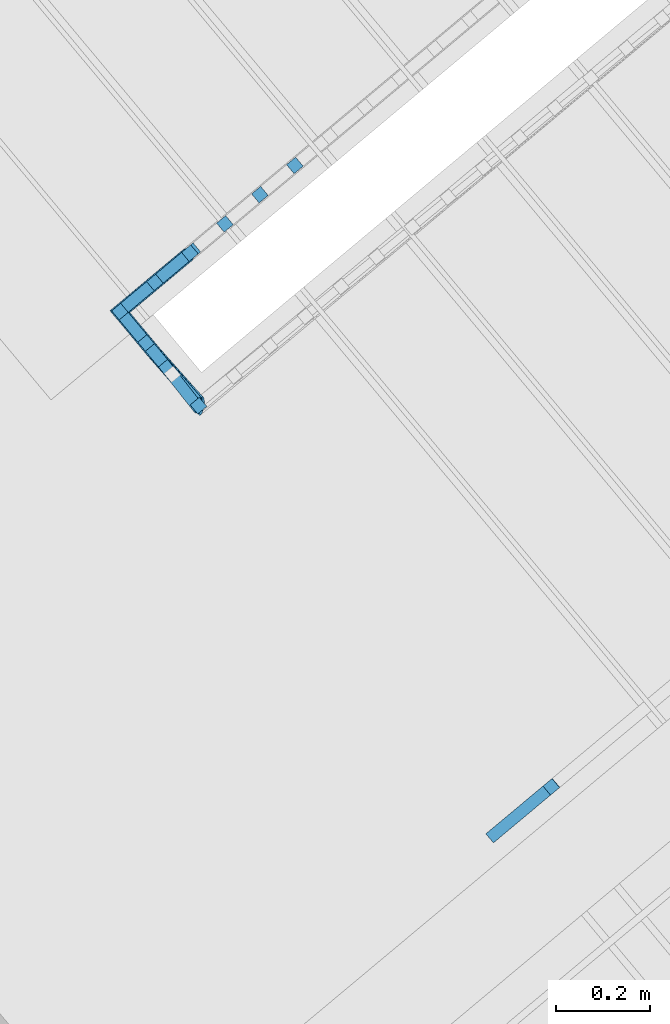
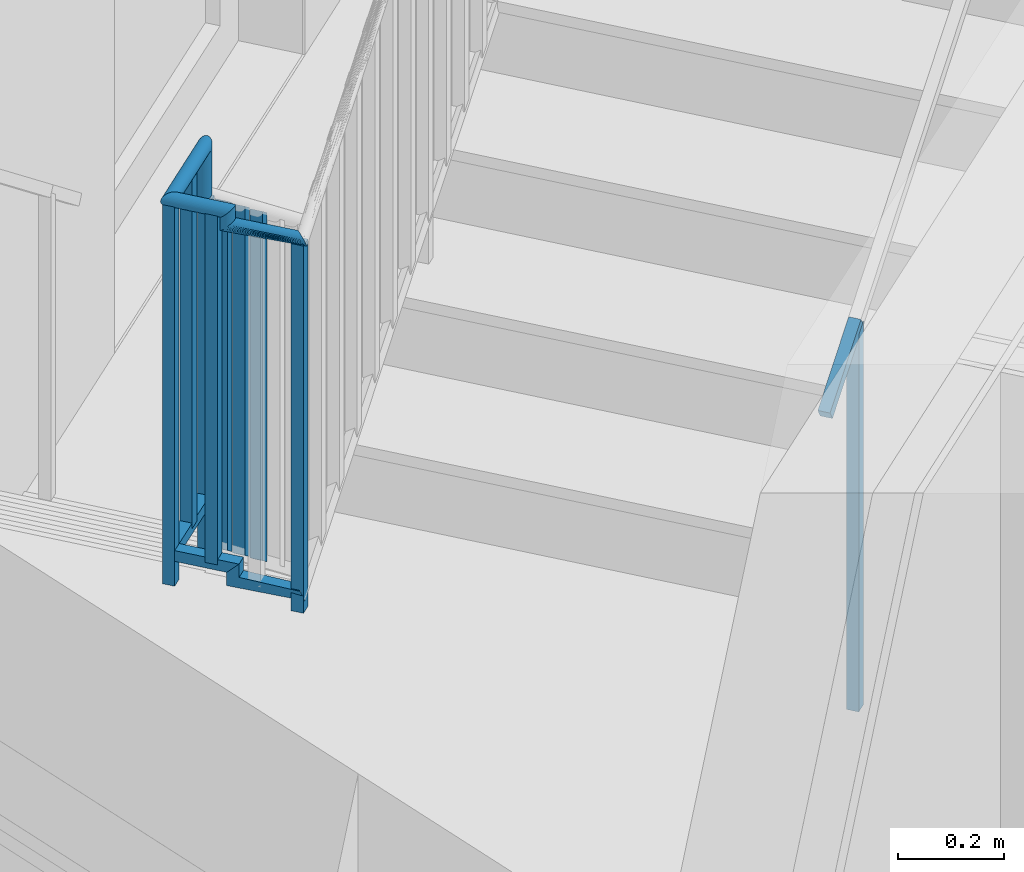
# One storey, part 38 of 50: 16 building element parts, 2 elements without a shape of their own.
"""IFC4 building model written with IfcOpenShell, lengths in metres."""

from ifc_helpers import new_model, entity, si_unit, converted_unit, derived_unit, direction, frame, origin_with_axes, place, context, subcontext, project, spatial, polygons, material, type_object, element, aggregate, save


model = new_model("IFC4")

# Units and contexts
model_context = context("Model", 3, precision=1e-05, world=origin_with_axes(), true_north=direction((0.0, 1.0)))
body_context = subcontext(model_context, "Body", "Model", "MODEL_VIEW")
ifc_project = project(units=[si_unit("LENGTHUNIT", "METRE"), si_unit("AREAUNIT", "SQUARE_METRE"), si_unit("VOLUMEUNIT", "CUBIC_METRE"), converted_unit("PLANEANGLEUNIT", "DEGREE", entity("IfcPlaneAngleMeasure", 0.0174532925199), si_unit("PLANEANGLEUNIT", "RADIAN"), dimensions=[0, 0, 0, 0, 0, 0, 0]), converted_unit("TIMEUNIT", "Year", entity("IfcTimeMeasure", 31556926.0), si_unit("TIMEUNIT", "SECOND"), dimensions=[0, 0, 1, 0, 0, 0, 0]), si_unit("MASSUNIT", "GRAM", prefix="KILO"), si_unit("THERMODYNAMICTEMPERATUREUNIT", "DEGREE_CELSIUS"), si_unit("LUMINOUSINTENSITYUNIT", "LUMEN"), si_unit("ENERGYUNIT", "JOULE", prefix="MEGA"), derived_unit("THERMALCONDUCTANCEUNIT", [(si_unit("POWERUNIT", "WATT"), 1), (si_unit("LENGTHUNIT", "METRE"), -1), (si_unit("THERMODYNAMICTEMPERATUREUNIT", "KELVIN"), -1)]), derived_unit("SPECIFICHEATCAPACITYUNIT", [(si_unit("ENERGYUNIT", "JOULE"), 1), (si_unit("MASSUNIT", "GRAM", prefix="KILO"), -1), (si_unit("THERMODYNAMICTEMPERATUREUNIT", "KELVIN"), -1)]), derived_unit("MASSDENSITYUNIT", [(si_unit("MASSUNIT", "GRAM", prefix="KILO"), 1), (si_unit("VOLUMEUNIT", "CUBIC_METRE"), -1)])], contexts=[model_context])

# Site, building, storey
site_placement = place(None, frame((-0.00153261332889, -0.00661245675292, 0.0), z_axis=(0.0, 0.0, 1.0), x_axis=(1.0, 0.0, 0.0)))
site = spatial("IfcSite", under=ifc_project, at=site_placement, Name="Site", CompositionType="ELEMENT")
building_placement = place(site_placement, origin_with_axes())
building = spatial("IfcBuilding", under=site, at=building_placement, Name="Building", CompositionType="ELEMENT")
storey_placement = place(building_placement, frame((0.0, 0.0, 2.74), z_axis=(0.0, 0.0, 1.0), x_axis=(1.0, 0.0, 0.0)))
storey = spatial("IfcBuildingStorey", under=building, at=storey_placement, Name="OG1", CompositionType="ELEMENT", Elevation=2.74)

# Railing, building element parts
railing_type = type_object("IfcRailingType", Name="Geländerart", PredefinedType="NOTDEFINED")
railing_1_placement = place(storey_placement, frame((-0.398547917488, 23.8355657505, 0.05), z_axis=(0.0, 0.0, 1.0), x_axis=(1.0, 0.0, 0.0)))
railing_1 = element("IfcRailing", 1, at=railing_1_placement, inside=storey, type_object=railing_type, Name="Geländer - 001", PredefinedType="NOTDEFINED")
ifc_material = material(Name="BEKLEIDUNG")
building_element_part_1_placement = place(railing_1_placement, origin_with_axes())
building_element_part_1 = element("IfcBuildingElementPart", 2, at=building_element_part_1_placement, material=ifc_material, Name="BEKLEIDUNG", PredefinedType="NOTDEFINED", context=body_context, shape_type="Tessellation", body=[
    polygons([(-1.83073465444, -1.44815547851, 1.77058823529), (-1.81470539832, -1.46734044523, 1.77058823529), (-1.81470539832, -1.46734044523, 2.65058823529), (-1.83073465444, -1.44815547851, 2.65058823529), (-1.81154968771, -1.43212622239, 1.77058823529), (-1.79552043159, -1.45131118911, 1.77058823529), (-1.79552043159, -1.45131118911, 2.65058823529), (-1.81154968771, -1.43212622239, 2.65058823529)], [[[1, 2, 3, 4]], [[1, 5, 6, 2]], [[2, 6, 7, 3]], [[4, 3, 7, 8]], [[5, 1, 4, 8]], [[6, 5, 8, 7]]], closed=True),
])
building_element_part_2_placement = place(railing_1_placement, origin_with_axes())
building_element_part_2 = element("IfcBuildingElementPart", 3, at=building_element_part_2_placement, material=ifc_material, Name="BEKLEIDUNG", PredefinedType="NOTDEFINED", context=body_context, shape_type="Tessellation", body=[
    polygons([(-1.65806995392, -1.30389217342, 1.7297425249), (-1.67725492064, -1.31992142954, 1.71753377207), (-1.67725492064, -1.31992142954, 1.82808823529), (-1.83073514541, -1.44815588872, 1.82808823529), (-1.83073514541, -1.44815588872, 1.85308823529), (-1.65806995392, -1.30389217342, 1.85308823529), (-1.6420406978, -1.32307714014, 1.7297425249), (-1.66122566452, -1.33910639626, 1.71753377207), (-1.66122566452, -1.33910639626, 1.82808823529), (-1.79551994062, -1.4513107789, 1.82808823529), (-1.79551994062, -1.4513107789, 1.85308823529), (-1.6420406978, -1.32307714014, 1.85308823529)], [[[1, 2, 3, 4, 5, 6]], [[1, 7, 8, 2]], [[2, 8, 9, 3]], [[3, 9, 10, 4]], [[5, 4, 10, 11]], [[12, 6, 5, 11]], [[7, 1, 6, 12]], [[8, 7, 12, 11, 10, 9]]], closed=True),
])
building_element_part_3_placement = place(railing_1_placement, origin_with_axes())
building_element_part_3 = element("IfcBuildingElementPart", 4, at=building_element_part_3_placement, material=ifc_material, Name="BEKLEIDUNG", PredefinedType="NOTDEFINED", context=body_context, shape_type="Tessellation", body=[
    polygons([(-1.66154123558, -1.34262781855, 2.54631289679), (-1.65968848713, -1.34078287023, 2.5475849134), (-1.65968848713, -1.34078287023, 2.65819295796), (-1.66154123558, -1.34262781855, 2.65558823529), (-1.66368620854, -1.34412301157, 2.54504088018), (-1.66605823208, -1.3452230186, 2.54380751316), (-1.66858523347, -1.34589441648, 2.54265027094), (-1.67119043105, -1.34611680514, 2.54160431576), (-1.67379466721, -1.3458834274, 2.54070142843), (-1.67631881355, -1.34520137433, 2.53996904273), (-1.67868617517, -1.34409136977, 2.53942941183), (-1.68082482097, -1.34258714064, 2.53909893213), (-1.68266976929, -1.34073439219, 2.53898764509), (-1.68416496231, -1.33858941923, 2.53909893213), (-1.68526496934, -1.33621739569, 2.53942941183), (-1.68593636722, -1.3336903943, 2.53996904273), (-1.68615875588, -1.33108519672, 2.54070142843), (-1.68592537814, -1.32848096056, 2.54160431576), (-1.68524332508, -1.32595681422, 2.54265027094), (-1.68413332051, -1.3235894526, 2.54380751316), (-1.68262909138, -1.3214508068, 2.54504088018), (-1.68077634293, -1.31960585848, 2.54631289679), (-1.67863136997, -1.31811066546, 2.5475849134), (-1.67625934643, -1.31701065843, 2.54881828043), (-1.67373234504, -1.31633926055, 2.54997552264), (-1.67112714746, -1.31611687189, 2.55102147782), (-1.6685229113, -1.31635024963, 2.55192436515), (-1.66599876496, -1.31703230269, 2.55265675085), (-1.66363140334, -1.31814230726, 2.55319638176), (-1.66149275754, -1.31964653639, 2.55352686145), (-1.65964780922, -1.32149928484, 2.55363814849), (-1.6581526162, -1.3236442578, 2.55352686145), (-1.65705260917, -1.32601628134, 2.55319638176), (-1.65638121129, -1.32854328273, 2.55265675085), (-1.65615882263, -1.33114848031, 2.55192436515), (-1.65639220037, -1.33375271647, 2.55102147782), (-1.65707425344, -1.33627686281, 2.54997552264), (-1.658184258, -1.33864422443, 2.54881828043), (-1.658184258, -1.33864422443, 2.66071853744), (-1.792319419, -1.45159751, 2.65819295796), (-1.79199842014, -1.45162626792, 2.65558823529), (-1.66368620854, -1.34412301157, 2.65298351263), (-1.66605823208, -1.3452230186, 2.65045793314), (-1.66858523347, -1.34589441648, 2.64808823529), (-1.67119043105, -1.34611680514, 2.64594642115), (-1.67379466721, -1.3458834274, 2.64409756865), (-1.67631881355, -1.34520137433, 2.64259785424), (-1.67868617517, -1.34409136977, 2.64149284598), (-1.68082482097, -1.34258714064, 2.640816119), (-1.68266976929, -1.34073439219, 2.64058823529), (-1.68416496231, -1.33858941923, 2.640816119), (-1.68526496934, -1.33621739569, 2.64149284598), (-1.68593636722, -1.3336903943, 2.64259785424), (-1.68615875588, -1.33108519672, 2.64409756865), (-1.68592537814, -1.32848096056, 2.64594642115), (-1.68524332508, -1.32595681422, 2.64808823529), (-1.68413332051, -1.3235894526, 2.65045793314), (-1.68262909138, -1.3214508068, 2.65298351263), (-1.68077634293, -1.31960585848, 2.65558823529), (-1.67863136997, -1.31811066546, 2.65819295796), (-1.67625934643, -1.31701065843, 2.66071853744), (-1.67373234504, -1.31633926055, 2.66308823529), (-1.67112714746, -1.31611687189, 2.66523004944), (-1.6685229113, -1.31635024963, 2.66707890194), (-1.66599876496, -1.31703230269, 2.66857861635), (-1.66363140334, -1.31814230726, 2.66968362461), (-1.66149275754, -1.31964653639, 2.67036035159), (-1.65964780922, -1.32149928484, 2.67058823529), (-1.6581526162, -1.3236442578, 2.67036035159), (-1.65705260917, -1.32601628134, 2.66968362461), (-1.65638121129, -1.32854328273, 2.66857861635), (-1.65615882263, -1.33114848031, 2.66707890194), (-1.65639220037, -1.33375271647, 2.66523004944), (-1.65707425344, -1.33627686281, 2.66308823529), (-1.79327266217, -1.45151211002, 2.66071853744), (-1.79482918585, -1.45137266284, 2.66308823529), (-1.79694169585, -1.45118340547, 2.66523004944), (-1.79954600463, -1.4509500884, 2.66707890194), (-1.80256298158, -1.45067980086, 2.66857861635), (-1.80590095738, -1.45038075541, 2.66968362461), (-1.80945850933, -1.45006203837, 2.67036035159), (-1.81312754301, -1.44973333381, 2.67058823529), (-1.8167965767, -1.44940462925, 2.67036035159), (-1.82035412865, -1.44908591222, 2.66968362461), (-1.82369210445, -1.44878686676, 2.66857861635), (-1.8267090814, -1.44851657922, 2.66707890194), (-1.82931339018, -1.44828326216, 2.66523004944), (-1.83142590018, -1.44809400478, 2.66308823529), (-1.83298242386, -1.4479545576, 2.66071853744), (-1.83393566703, -1.44786915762, 2.65819295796), (-1.83425666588, -1.4478403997, 2.65558823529), (-1.83393566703, -1.44786915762, 2.65298351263), (-1.83298242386, -1.4479545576, 2.65045793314), (-1.83142590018, -1.44809400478, 2.64808823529), (-1.82931339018, -1.44828326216, 2.64594642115), (-1.8267090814, -1.44851657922, 2.64409756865), (-1.82369210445, -1.44878686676, 2.64259785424), (-1.82035412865, -1.44908591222, 2.64149284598), (-1.8167965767, -1.44940462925, 2.640816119), (-1.81312754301, -1.44973333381, 2.64058823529), (-1.80945850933, -1.45006203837, 2.640816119), (-1.80590095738, -1.45038075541, 2.64149284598), (-1.80256298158, -1.45067980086, 2.64259785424), (-1.79954600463, -1.4509500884, 2.64409756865), (-1.79694169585, -1.45118340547, 2.64594642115), (-1.79482918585, -1.45137266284, 2.64808823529), (-1.79327266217, -1.45151211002, 2.65045793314), (-1.792319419, -1.45159751, 2.65298351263)], [[[1, 2, 3, 4]], [[1, 5, 6, 7, 8, 9, 10, 11, 12, 13, 14, 15, 16, 17, 18, 19, 20, 21, 22, 23, 24, 25, 26, 27, 28, 29, 30, 31, 32, 33, 34, 35, 36, 37, 38, 2]], [[2, 38, 39, 3]], [[4, 3, 40, 41]], [[5, 1, 4, 42]], [[6, 5, 42, 43]], [[7, 6, 43, 44]], [[8, 7, 44, 45]], [[9, 8, 45, 46]], [[10, 9, 46, 47]], [[11, 10, 47, 48]], [[12, 11, 48, 49]], [[13, 12, 49, 50]], [[14, 13, 50, 51]], [[15, 14, 51, 52]], [[16, 15, 52, 53]], [[17, 16, 53, 54]], [[18, 17, 54, 55]], [[19, 18, 55, 56]], [[20, 19, 56, 57]], [[21, 20, 57, 58]], [[22, 21, 58, 59]], [[23, 22, 59, 60]], [[24, 23, 60, 61]], [[25, 24, 61, 62]], [[26, 25, 62, 63]], [[27, 26, 63, 64]], [[28, 27, 64, 65]], [[29, 28, 65, 66]], [[30, 29, 66, 67]], [[31, 30, 67, 68]], [[32, 31, 68, 69]], [[33, 32, 69, 70]], [[34, 33, 70, 71]], [[35, 34, 71, 72]], [[36, 35, 72, 73]], [[37, 36, 73, 74]], [[38, 37, 74, 39]], [[3, 39, 75, 40]], [[41, 40, 75, 76, 77, 78, 79, 80, 81, 82, 83, 84, 85, 86, 87, 88, 89, 90, 91, 92, 93, 94, 95, 96, 97, 98, 99, 100, 101, 102, 103, 104, 105, 106, 107, 108]], [[42, 4, 41, 108]], [[43, 42, 108, 107]], [[44, 43, 107, 106]], [[45, 44, 106, 105]], [[46, 45, 105, 104]], [[47, 46, 104, 103]], [[48, 47, 103, 102]], [[49, 48, 102, 101]], [[50, 49, 101, 100]], [[51, 50, 100, 99]], [[52, 51, 99, 98]], [[53, 52, 98, 97]], [[54, 53, 97, 96]], [[55, 54, 96, 95]], [[56, 55, 95, 94]], [[57, 56, 94, 93]], [[58, 57, 93, 92]], [[59, 58, 92, 91]], [[60, 59, 91, 90]], [[61, 60, 90, 89]], [[62, 61, 89, 88]], [[63, 62, 88, 87]], [[64, 63, 87, 86]], [[65, 64, 86, 85]], [[66, 65, 85, 84]], [[67, 66, 84, 83]], [[68, 67, 83, 82]], [[69, 68, 82, 81]], [[70, 69, 81, 80]], [[71, 70, 80, 79]], [[72, 71, 79, 78]], [[73, 72, 78, 77]], [[74, 73, 77, 76]], [[39, 74, 76, 75]]], closed=True),
])
building_element_part_4_placement = place(railing_1_placement, origin_with_axes())
building_element_part_4 = element("IfcBuildingElementPart", 5, at=building_element_part_4_placement, material=ifc_material, Name="BEKLEIDUNG", PredefinedType="NOTDEFINED", context=body_context, shape_type="Tessellation", body=[
    polygons([(-1.64801867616, -1.66682135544, 1.77058823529), (-1.62883452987, -1.65079111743, 1.77058823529), (-1.62883452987, -1.65079111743, 2.61989887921), (-1.64801867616, -1.66682135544, 2.61989887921), (-1.66404891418, -1.64763720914, 1.77058823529), (-1.64486476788, -1.63160697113, 1.77058823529), (-1.64486476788, -1.63160697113, 2.61989887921), (-1.66404891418, -1.64763720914, 2.61989887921)], [[[1, 2, 3, 4]], [[1, 5, 6, 2]], [[2, 6, 7, 3]], [[4, 3, 7, 8]], [[5, 1, 4, 8]], [[6, 5, 8, 7]]], closed=True),
])
building_element_part_5_placement = place(railing_1_placement, origin_with_axes())
building_element_part_5 = element("IfcBuildingElementPart", 6, at=building_element_part_5_placement, material=ifc_material, Name="BEKLEIDUNG", PredefinedType="NOTDEFINED", context=body_context, shape_type="Tessellation", body=[
    polygons([(-1.73136158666, -1.5670809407, 1.85308823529), (-1.74739182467, -1.5478967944, 1.82808823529), (-1.74739182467, -1.5478967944, 1.79739887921), (-1.73136158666, -1.5670809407, 1.82239887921), (-1.71217744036, -1.55105070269, 1.85308823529), (-1.72820767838, -1.53186655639, 1.82808823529), (-1.72820767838, -1.53186655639, 1.79739887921), (-1.64445279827, -1.66621433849, 1.79779595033), (-1.71217744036, -1.55105070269, 1.82239887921), (-1.63893066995, -1.63383411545, 1.79779595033), (-1.6539527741, -1.66459421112, 1.82200180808), (-1.64843064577, -1.63221398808, 1.82200180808)], [[[1, 2, 3, 4]], [[1, 5, 6, 2]], [[2, 6, 7, 3]], [[4, 3, 8]], [[5, 1, 4, 9]], [[6, 5, 9, 7]], [[3, 7, 10]], [[3, 10, 8]], [[4, 8, 11]], [[9, 4, 11]], [[7, 9, 12]], [[7, 12, 10]], [[11, 8, 10, 12]], [[9, 11, 12]]], closed=True),
])
building_element_part_6_placement = place(railing_1_placement, origin_with_axes())
building_element_part_6 = element("IfcBuildingElementPart", 7, at=building_element_part_6_placement, material=ifc_material, Name="BEKLEIDUNG", PredefinedType="NOTDEFINED", context=body_context, shape_type="Tessellation", body=[
    polygons([(-1.72789228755, -1.52834511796, 2.65558823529), (-1.72639698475, -1.53049001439, 2.65819295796), (-1.72639698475, -1.53049001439, 2.62750360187), (-1.72789228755, -1.52834511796, 2.62489887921), (-1.72973733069, -1.52649246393, 2.65298351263), (-1.73187605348, -1.52498834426, 2.65045793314), (-1.7342434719, -1.52387846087, 2.64808823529), (-1.73676765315, -1.52319653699, 2.64594642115), (-1.73937190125, -1.52296329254, 2.64409756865), (-1.74197708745, -1.52318581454, 2.64259785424), (-1.74450405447, -1.52385734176, 2.64149284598), (-1.74687602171, -1.52495747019, 2.640816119), (-1.74902091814, -1.52645277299, 2.64058823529), (-1.75087357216, -1.52829781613, 2.640816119), (-1.75237769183, -1.53043653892, 2.64149284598), (-1.75348757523, -1.53280395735, 2.64259785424), (-1.7541694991, -1.53532813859, 2.64409756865), (-1.75440274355, -1.53793238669, 2.64594642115), (-1.75418022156, -1.54053757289, 2.64808823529), (-1.75350869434, -1.54306453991, 2.65045793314), (-1.7524085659, -1.54543650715, 2.65298351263), (-1.75091326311, -1.54758140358, 2.65558823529), (-1.74906821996, -1.5494340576, 2.65819295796), (-1.74692949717, -1.55093817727, 2.66071853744), (-1.74456207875, -1.55204806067, 2.66308823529), (-1.7420378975, -1.55272998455, 2.66523004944), (-1.7394336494, -1.55296322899, 2.66707890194), (-1.73682846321, -1.552740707, 2.66857861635), (-1.73430149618, -1.55206917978, 2.66968362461), (-1.73192952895, -1.55096905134, 2.67036035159), (-1.72978463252, -1.54947374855, 2.67058823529), (-1.72793197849, -1.5476287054, 2.67036035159), (-1.72642785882, -1.54548998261, 2.66968362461), (-1.72531797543, -1.54312256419, 2.66857861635), (-1.72463605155, -1.54059838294, 2.66707890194), (-1.7244028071, -1.53799413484, 2.66523004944), (-1.7246253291, -1.53538894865, 2.66308823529), (-1.72529685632, -1.53286198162, 2.66071853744), (-1.72529685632, -1.53286198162, 2.63002918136), (-1.63846858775, -1.63088446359, 2.62789734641), (-1.72973733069, -1.52649246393, 2.62229415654), (-1.73187605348, -1.52498834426, 2.61976857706), (-1.7342434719, -1.52387846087, 2.61739887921), (-1.73676765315, -1.52319653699, 2.61525706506), (-1.73937190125, -1.52296329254, 2.61340821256), (-1.74197708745, -1.52318581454, 2.61190849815), (-1.74450405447, -1.52385734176, 2.6108034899), (-1.74687602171, -1.52495747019, 2.61012676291), (-1.74902091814, -1.52645277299, 2.60989887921), (-1.75087357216, -1.52829781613, 2.61012676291), (-1.75237769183, -1.53043653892, 2.6108034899), (-1.75348757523, -1.53280395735, 2.61190849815), (-1.7541694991, -1.53532813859, 2.61340821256), (-1.75440274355, -1.53793238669, 2.61525706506), (-1.75418022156, -1.54053757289, 2.61739887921), (-1.75350869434, -1.54306453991, 2.61976857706), (-1.7524085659, -1.54543650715, 2.62229415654), (-1.75091326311, -1.54758140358, 2.62489887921), (-1.74906821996, -1.5494340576, 2.62750360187), (-1.74692949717, -1.55093817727, 2.63002918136), (-1.74456207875, -1.55204806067, 2.63239887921), (-1.7420378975, -1.55272998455, 2.63454069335), (-1.7394336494, -1.55296322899, 2.63638954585), (-1.73682846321, -1.552740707, 2.63788926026), (-1.73430149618, -1.55206917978, 2.63899426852), (-1.73192952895, -1.55096905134, 2.6396709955), (-1.72978463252, -1.54947374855, 2.63989887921), (-1.72793197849, -1.5476287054, 2.6396709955), (-1.72642785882, -1.54548998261, 2.63899426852), (-1.72531797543, -1.54312256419, 2.63788926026), (-1.72463605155, -1.54059838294, 2.63638954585), (-1.7244028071, -1.53799413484, 2.63454069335), (-1.7246253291, -1.53538894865, 2.63239887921), (-1.63957778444, -1.631597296, 2.63034269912), (-1.63742845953, -1.63075810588, 2.62537536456), (-1.63648900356, -1.63122206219, 2.62285338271), (-1.63567876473, -1.63226223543, 2.62040803), (-1.63502236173, -1.63384702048, 2.61811360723), (-1.63453973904, -1.63592826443, 2.61603982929), (-1.63424556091, -1.63844272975, 2.61424970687), (-1.63414876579, -1.64131401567, 2.61279763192), (-1.63425229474, -1.64445487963, 2.61172772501), (-1.63455300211, -1.64776988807, 2.61107249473), (-1.63504175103, -1.65115831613, 2.61085184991), (-1.63570369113, -1.65451720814, 2.61107249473), (-1.63651870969, -1.65774450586, 2.61172772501), (-1.63746204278, -1.66074214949, 2.61279763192), (-1.63850502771, -1.66341905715, 2.61424970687), (-1.63961597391, -1.66569389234, 2.61603982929), (-1.64076112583, -1.66749753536, 2.61811360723), (-1.64190568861, -1.66877518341, 2.62040803), (-1.64301488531, -1.66948801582, 2.62285338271), (-1.64405501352, -1.66961437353, 2.62537536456), (-1.64499446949, -1.66915041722, 2.62789734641), (-1.64580470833, -1.66811024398, 2.63034269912), (-1.64646111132, -1.66652545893, 2.63263712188), (-1.64694373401, -1.66444421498, 2.63471089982), (-1.64723791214, -1.66192974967, 2.63650102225), (-1.64733470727, -1.65905846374, 2.6379530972), (-1.64723117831, -1.65591759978, 2.6390230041), (-1.64693047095, -1.65260259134, 2.63967823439), (-1.64644172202, -1.64921416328, 2.63989887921), (-1.64577978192, -1.64585527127, 2.63967823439), (-1.64496476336, -1.64262797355, 2.6390230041), (-1.64402143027, -1.63963032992, 2.6379530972), (-1.64297844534, -1.63695342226, 2.63650102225), (-1.64186749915, -1.63467858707, 2.63471089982), (-1.64072234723, -1.63287494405, 2.63263712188)], [[[1, 2, 3, 4]], [[1, 5, 6, 7, 8, 9, 10, 11, 12, 13, 14, 15, 16, 17, 18, 19, 20, 21, 22, 23, 24, 25, 26, 27, 28, 29, 30, 31, 32, 33, 34, 35, 36, 37, 38, 2]], [[2, 38, 39, 3]], [[4, 3, 40]], [[5, 1, 4, 41]], [[6, 5, 41, 42]], [[7, 6, 42, 43]], [[8, 7, 43, 44]], [[9, 8, 44, 45]], [[10, 9, 45, 46]], [[11, 10, 46, 47]], [[12, 11, 47, 48]], [[13, 12, 48, 49]], [[14, 13, 49, 50]], [[15, 14, 50, 51]], [[16, 15, 51, 52]], [[17, 16, 52, 53]], [[18, 17, 53, 54]], [[19, 18, 54, 55]], [[20, 19, 55, 56]], [[21, 20, 56, 57]], [[22, 21, 57, 58]], [[23, 22, 58, 59]], [[24, 23, 59, 60]], [[25, 24, 60, 61]], [[26, 25, 61, 62]], [[27, 26, 62, 63]], [[28, 27, 63, 64]], [[29, 28, 64, 65]], [[30, 29, 65, 66]], [[31, 30, 66, 67]], [[32, 31, 67, 68]], [[33, 32, 68, 69]], [[34, 33, 69, 70]], [[35, 34, 70, 71]], [[36, 35, 71, 72]], [[37, 36, 72, 73]], [[38, 37, 73, 39]], [[3, 39, 74]], [[3, 74, 40]], [[4, 40, 75]], [[41, 4, 75]], [[42, 41, 76]], [[43, 42, 77]], [[44, 43, 78]], [[45, 44, 79]], [[46, 45, 80]], [[47, 46, 81]], [[48, 47, 82]], [[49, 48, 83]], [[50, 49, 84]], [[51, 50, 85]], [[52, 51, 86]], [[53, 52, 87]], [[54, 53, 88]], [[55, 54, 89]], [[56, 55, 90]], [[57, 56, 91]], [[58, 57, 92]], [[59, 58, 93]], [[60, 59, 94]], [[61, 60, 95]], [[62, 61, 96]], [[63, 62, 97]], [[64, 63, 98]], [[65, 64, 99]], [[66, 65, 100]], [[67, 66, 101]], [[68, 67, 102]], [[69, 68, 103]], [[70, 69, 104]], [[71, 70, 105]], [[72, 71, 106]], [[73, 72, 107]], [[39, 73, 108]], [[39, 108, 74]], [[75, 40, 74, 108, 107, 106, 105, 104, 103, 102, 101, 100, 99, 98, 97, 96, 95, 94, 93, 92, 91, 90, 89, 88, 87, 86, 85, 84, 83, 82, 81, 80, 79, 78, 77, 76]], [[41, 75, 76]], [[42, 76, 77]], [[43, 77, 78]], [[44, 78, 79]], [[45, 79, 80]], [[46, 80, 81]], [[47, 81, 82]], [[48, 82, 83]], [[49, 83, 84]], [[50, 84, 85]], [[51, 85, 86]], [[52, 86, 87]], [[53, 87, 88]], [[54, 88, 89]], [[55, 89, 90]], [[56, 90, 91]], [[57, 91, 92]], [[58, 92, 93]], [[59, 93, 94]], [[60, 94, 95]], [[61, 95, 96]], [[62, 96, 97]], [[63, 97, 98]], [[64, 98, 99]], [[65, 99, 100]], [[66, 100, 101]], [[67, 101, 102]], [[68, 102, 103]], [[69, 103, 104]], [[70, 104, 105]], [[71, 105, 106]], [[72, 106, 107]], [[73, 107, 108]]], closed=True),
])
building_element_part_7_placement = place(railing_1_placement, origin_with_axes())
building_element_part_7 = element("IfcBuildingElementPart", 8, at=building_element_part_7_placement, material=ifc_material, Name="BEKLEIDUNG", PredefinedType="NOTDEFINED", context=body_context, shape_type="Tessellation", body=[
    polygons([(-1.45967860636, -1.1381339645, 1.51232562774), (-1.44364935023, -1.15731893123, 1.51232562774), (-1.44364935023, -1.15731893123, 2.31982562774), (-1.45967860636, -1.1381339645, 2.31982562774), (-1.44049363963, -1.12210470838, 1.49283361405), (-1.42446438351, -1.1412896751, 1.49283361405), (-1.42446438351, -1.1412896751, 2.30033361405), (-1.44049363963, -1.12210470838, 2.30033361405)], [[[1, 2, 3, 4]], [[1, 5, 6, 2]], [[2, 6, 7, 3]], [[4, 3, 7, 8]], [[5, 1, 4, 8]], [[6, 5, 8, 7]]], closed=True),
])
building_element_part_8_placement = place(railing_1_placement, origin_with_axes())
building_element_part_8 = element("IfcBuildingElementPart", 9, at=building_element_part_8_placement, material=ifc_material, Name="BEKLEIDUNG", PredefinedType="NOTDEFINED", context=body_context, shape_type="Tessellation", body=[
    polygons([(-1.53388981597, -1.2001382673, 1.58772455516), (-1.51786055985, -1.21932323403, 1.58772455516), (-1.51786055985, -1.21932323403, 2.39522455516), (-1.53388981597, -1.2001382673, 2.39522455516), (-1.51470484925, -1.18410901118, 1.56823254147), (-1.49867559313, -1.20329397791, 1.56823254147), (-1.49867559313, -1.20329397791, 2.37573254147), (-1.51470484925, -1.18410901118, 2.37573254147)], [[[1, 2, 3, 4]], [[1, 5, 6, 2]], [[2, 6, 7, 3]], [[4, 3, 7, 8]], [[5, 1, 4, 8]], [[6, 5, 8, 7]]], closed=True),
])
building_element_part_9_placement = place(railing_1_placement, origin_with_axes())
building_element_part_9 = element("IfcBuildingElementPart", 10, at=building_element_part_9_placement, material=ifc_material, Name="BEKLEIDUNG", PredefinedType="NOTDEFINED", context=body_context, shape_type="Tessellation", body=[
    polygons([(-1.60810102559, -1.2621425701, 1.66312348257), (-1.59207176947, -1.28132753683, 1.66312348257), (-1.59207176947, -1.28132753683, 2.47062348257), (-1.60810102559, -1.2621425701, 2.47062348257), (-1.58891605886, -1.24611331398, 1.64363146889), (-1.57288680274, -1.26529828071, 1.64363146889), (-1.57288680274, -1.26529828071, 2.45113146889), (-1.58891605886, -1.24611331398, 2.45113146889)], [[[1, 2, 3, 4]], [[1, 5, 6, 2]], [[2, 6, 7, 3]], [[4, 3, 7, 8]], [[5, 1, 4, 8]], [[6, 5, 8, 7]]], closed=True),
])
building_element_part_10_placement = place(railing_1_placement, origin_with_axes())
building_element_part_10 = element("IfcBuildingElementPart", 11, at=building_element_part_10_placement, material=ifc_material, Name="BEKLEIDUNG", PredefinedType="NOTDEFINED", context=body_context, shape_type="Tessellation", body=[
    polygons([(-1.6823122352, -1.32414687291, 1.72363814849), (-1.66628297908, -1.34333183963, 1.72363814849), (-1.66628297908, -1.34333183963, 2.53113814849), (-1.6823122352, -1.32414687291, 2.53113814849), (-1.66312726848, -1.30811761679, 1.72363814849), (-1.64709801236, -1.32730258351, 1.72363814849), (-1.64709801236, -1.32730258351, 2.53113814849), (-1.66312726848, -1.30811761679, 2.53113814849)], [[[1, 2, 3, 4]], [[1, 5, 6, 2]], [[2, 6, 7, 3]], [[4, 3, 7, 8]], [[5, 1, 4, 8]], [[6, 5, 8, 7]]], closed=True),
])
building_element_part_11_placement = place(railing_1_placement, origin_with_axes())
building_element_part_11 = element("IfcBuildingElementPart", 12, at=building_element_part_11_placement, material=ifc_material, Name="BEKLEIDUNG", PredefinedType="NOTDEFINED", context=body_context, shape_type="Tessellation", body=[
    polygons([(-1.75652344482, -1.38615117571, 1.84058823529), (-1.7404941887, -1.40533614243, 1.84058823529), (-1.7404941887, -1.40533614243, 2.64808823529), (-1.75652344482, -1.38615117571, 2.64808823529), (-1.7373384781, -1.37012191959, 1.84058823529), (-1.72130922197, -1.38930688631, 1.84058823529), (-1.72130922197, -1.38930688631, 2.64808823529), (-1.7373384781, -1.37012191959, 2.64808823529)], [[[1, 2, 3, 4]], [[1, 5, 6, 2]], [[2, 6, 7, 3]], [[4, 3, 7, 8]], [[5, 1, 4, 8]], [[6, 5, 8, 7]]], closed=True),
])
building_element_part_12_placement = place(railing_1_placement, origin_with_axes())
building_element_part_12 = element("IfcBuildingElementPart", 13, at=building_element_part_12_placement, material=ifc_material, Name="BEKLEIDUNG", PredefinedType="NOTDEFINED", context=body_context, shape_type="Tessellation", body=[
    polygons([(-1.79199842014, -1.45162626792, 2.65558823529), (-1.792319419, -1.45159751, 2.65819295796), (-1.72639698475, -1.53049001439, 2.65819295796), (-1.72789228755, -1.52834511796, 2.65558823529), (-1.792319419, -1.45159751, 2.65298351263), (-1.79327266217, -1.45151211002, 2.65045793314), (-1.79482918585, -1.45137266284, 2.64808823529), (-1.79694169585, -1.45118340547, 2.64594642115), (-1.79954600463, -1.4509500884, 2.64409756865), (-1.80256298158, -1.45067980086, 2.64259785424), (-1.80590095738, -1.45038075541, 2.64149284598), (-1.80945850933, -1.45006203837, 2.640816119), (-1.81312754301, -1.44973333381, 2.64058823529), (-1.8167965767, -1.44940462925, 2.640816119), (-1.82035412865, -1.44908591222, 2.64149284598), (-1.82369210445, -1.44878686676, 2.64259785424), (-1.8267090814, -1.44851657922, 2.64409756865), (-1.82931339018, -1.44828326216, 2.64594642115), (-1.83142590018, -1.44809400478, 2.64808823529), (-1.83298242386, -1.4479545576, 2.65045793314), (-1.83393566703, -1.44786915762, 2.65298351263), (-1.83425666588, -1.4478403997, 2.65558823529), (-1.83393566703, -1.44786915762, 2.65819295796), (-1.83298242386, -1.4479545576, 2.66071853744), (-1.83142590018, -1.44809400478, 2.66308823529), (-1.82931339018, -1.44828326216, 2.66523004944), (-1.8267090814, -1.44851657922, 2.66707890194), (-1.82369210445, -1.44878686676, 2.66857861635), (-1.82035412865, -1.44908591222, 2.66968362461), (-1.8167965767, -1.44940462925, 2.67036035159), (-1.81312754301, -1.44973333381, 2.67058823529), (-1.80945850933, -1.45006203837, 2.67036035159), (-1.80590095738, -1.45038075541, 2.66968362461), (-1.80256298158, -1.45067980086, 2.66857861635), (-1.79954600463, -1.4509500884, 2.66707890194), (-1.79694169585, -1.45118340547, 2.66523004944), (-1.79482918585, -1.45137266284, 2.66308823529), (-1.79327266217, -1.45151211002, 2.66071853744), (-1.72529685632, -1.53286198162, 2.66071853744), (-1.7246253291, -1.53538894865, 2.66308823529), (-1.7244028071, -1.53799413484, 2.66523004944), (-1.72463605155, -1.54059838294, 2.66707890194), (-1.72531797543, -1.54312256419, 2.66857861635), (-1.72642785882, -1.54548998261, 2.66968362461), (-1.72793197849, -1.5476287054, 2.67036035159), (-1.72978463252, -1.54947374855, 2.67058823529), (-1.73192952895, -1.55096905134, 2.67036035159), (-1.73430149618, -1.55206917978, 2.66968362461), (-1.73682846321, -1.552740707, 2.66857861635), (-1.7394336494, -1.55296322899, 2.66707890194), (-1.7420378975, -1.55272998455, 2.66523004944), (-1.74456207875, -1.55204806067, 2.66308823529), (-1.74692949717, -1.55093817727, 2.66071853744), (-1.74906821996, -1.5494340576, 2.65819295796), (-1.75091326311, -1.54758140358, 2.65558823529), (-1.7524085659, -1.54543650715, 2.65298351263), (-1.75350869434, -1.54306453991, 2.65045793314), (-1.75418022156, -1.54053757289, 2.64808823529), (-1.75440274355, -1.53793238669, 2.64594642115), (-1.7541694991, -1.53532813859, 2.64409756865), (-1.75348757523, -1.53280395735, 2.64259785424), (-1.75237769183, -1.53043653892, 2.64149284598), (-1.75087357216, -1.52829781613, 2.640816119), (-1.74902091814, -1.52645277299, 2.64058823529), (-1.74687602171, -1.52495747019, 2.640816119), (-1.74450405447, -1.52385734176, 2.64149284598), (-1.74197708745, -1.52318581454, 2.64259785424), (-1.73937190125, -1.52296329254, 2.64409756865), (-1.73676765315, -1.52319653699, 2.64594642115), (-1.7342434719, -1.52387846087, 2.64808823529), (-1.73187605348, -1.52498834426, 2.65045793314), (-1.72973733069, -1.52649246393, 2.65298351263)], [[[1, 2, 3, 4]], [[1, 5, 6, 7, 8, 9, 10, 11, 12, 13, 14, 15, 16, 17, 18, 19, 20, 21, 22, 23, 24, 25, 26, 27, 28, 29, 30, 31, 32, 33, 34, 35, 36, 37, 38, 2]], [[2, 38, 39, 3]], [[4, 3, 39, 40, 41, 42, 43, 44, 45, 46, 47, 48, 49, 50, 51, 52, 53, 54, 55, 56, 57, 58, 59, 60, 61, 62, 63, 64, 65, 66, 67, 68, 69, 70, 71, 72]], [[5, 1, 4, 72]], [[6, 5, 72, 71]], [[7, 6, 71, 70]], [[8, 7, 70, 69]], [[9, 8, 69, 68]], [[10, 9, 68, 67]], [[11, 10, 67, 66]], [[12, 11, 66, 65]], [[13, 12, 65, 64]], [[14, 13, 64, 63]], [[15, 14, 63, 62]], [[16, 15, 62, 61]], [[17, 16, 61, 60]], [[18, 17, 60, 59]], [[19, 18, 59, 58]], [[20, 19, 58, 57]], [[21, 20, 57, 56]], [[22, 21, 56, 55]], [[23, 22, 55, 54]], [[24, 23, 54, 53]], [[25, 24, 53, 52]], [[26, 25, 52, 51]], [[27, 26, 51, 50]], [[28, 27, 50, 49]], [[29, 28, 49, 48]], [[30, 29, 48, 47]], [[31, 30, 47, 46]], [[32, 31, 46, 45]], [[33, 32, 45, 44]], [[34, 33, 44, 43]], [[35, 34, 43, 42]], [[36, 35, 42, 41]], [[37, 36, 41, 40]], [[38, 37, 40, 39]]], closed=True),
])
building_element_part_13_placement = place(railing_1_placement, origin_with_axes())
building_element_part_13 = element("IfcBuildingElementPart", 14, at=building_element_part_13_placement, material=ifc_material, Name="BEKLEIDUNG", PredefinedType="NOTDEFINED", context=body_context, shape_type="Tessellation", body=[
    polygons([(-1.83073514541, -1.44815588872, 1.85308823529), (-1.83073514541, -1.44815588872, 1.82808823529), (-1.74739182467, -1.5478967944, 1.82808823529), (-1.73136158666, -1.5670809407, 1.85308823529), (-1.79551994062, -1.4513107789, 1.85308823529), (-1.79551994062, -1.4513107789, 1.82808823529), (-1.72820767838, -1.53186655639, 1.82808823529), (-1.71217744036, -1.55105070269, 1.85308823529)], [[[1, 2, 3, 4]], [[1, 5, 6, 2]], [[2, 6, 7, 3]], [[4, 3, 7, 8]], [[5, 1, 4, 8]], [[6, 5, 8, 7]]], closed=True),
])
building_element_part_14_placement = place(railing_1_placement, origin_with_axes())
building_element_part_14 = element("IfcBuildingElementPart", 15, at=building_element_part_14_placement, material=ifc_material, Name="BEKLEIDUNG", PredefinedType="NOTDEFINED", context=body_context, shape_type="Tessellation", body=[
    polygons([(-1.75914255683, -1.53383413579, 1.84058823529), (-1.73995841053, -1.51780389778, 1.84058823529), (-1.73995841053, -1.51780389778, 2.64808823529), (-1.75914255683, -1.53383413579, 2.64808823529), (-1.77517279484, -1.51464998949, 1.84058823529), (-1.75598864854, -1.49861975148, 1.84058823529), (-1.75598864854, -1.49861975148, 2.64808823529), (-1.77517279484, -1.51464998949, 2.64808823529)], [[[1, 2, 3, 4]], [[1, 5, 6, 2]], [[2, 6, 7, 3]], [[4, 3, 7, 8]], [[5, 1, 4, 8]], [[6, 5, 8, 7]]], closed=True),
])
aggregate(railing_1, [building_element_part_1, building_element_part_2, building_element_part_3, building_element_part_4, building_element_part_5, building_element_part_6, building_element_part_7, building_element_part_8, building_element_part_9, building_element_part_10, building_element_part_11, building_element_part_12, building_element_part_13, building_element_part_14])

railing_2_placement = place(storey_placement, frame((-1.26480795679, 21.3396367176, 1.82058823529), z_axis=(0.0, 0.0, 1.0), x_axis=(1.0, 0.0, 0.0)))
railing_2 = element("IfcRailing", 16, at=railing_2_placement, inside=storey, type_object=railing_type, Name="Geländer - 002", PredefinedType="NOTDEFINED")
building_element_part_15_placement = place(railing_2_placement, origin_with_axes())
building_element_part_15 = element("IfcBuildingElementPart", 17, at=building_element_part_15_placement, material=ifc_material, Name="BEKLEIDUNG", PredefinedType="NOTDEFINED", context=body_context, shape_type="Tessellation", body=[
    polygons([(-0.0144532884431, 0.0367913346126, 0.0), (-0.0304835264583, 0.0559754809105, 0.0), (-0.0304835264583, 0.0559754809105, 0.887694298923), (-0.0144532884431, 0.0367913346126, 0.887694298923), (-0.033637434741, 0.0207610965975, 0.0), (-0.0496676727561, 0.0399452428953, 0.0), (-0.0496676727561, 0.0399452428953, 0.872305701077), (-0.033637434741, 0.0207610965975, 0.872305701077)], [[[1, 2, 3, 4]], [[1, 5, 6, 2]], [[2, 6, 7, 3]], [[4, 3, 7, 8]], [[5, 1, 4, 8]], [[6, 5, 8, 7]]], closed=True),
])
building_element_part_16_placement = place(railing_2_placement, origin_with_axes())
building_element_part_16 = element("IfcBuildingElementPart", 18, at=building_element_part_16_placement, material=ifc_material, Name="BEKLEIDUNG", PredefinedType="NOTDEFINED", context=body_context, shape_type="Tessellation", body=[
    polygons([(-0.0400755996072, 0.0479603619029, 0.9), (-0.0300193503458, 0.0563633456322, 0.878710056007), (-0.160716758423, -0.0528471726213, 0.773870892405), (-0.170773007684, -0.0612501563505, 0.795160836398), (-0.024045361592, 0.0287762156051, 0.9), (-0.0139891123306, 0.0371791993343, 0.878710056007), (-0.144686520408, -0.0720313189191, 0.773870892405), (-0.154742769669, -0.0804343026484, 0.795160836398)], [[[1, 2, 3, 4]], [[1, 5, 6, 2]], [[2, 6, 7, 3]], [[4, 3, 7, 8]], [[5, 1, 4, 8]], [[6, 5, 8, 7]]], closed=True),
])
aggregate(railing_2, [building_element_part_15, building_element_part_16])

save(model, "model.ifc")
